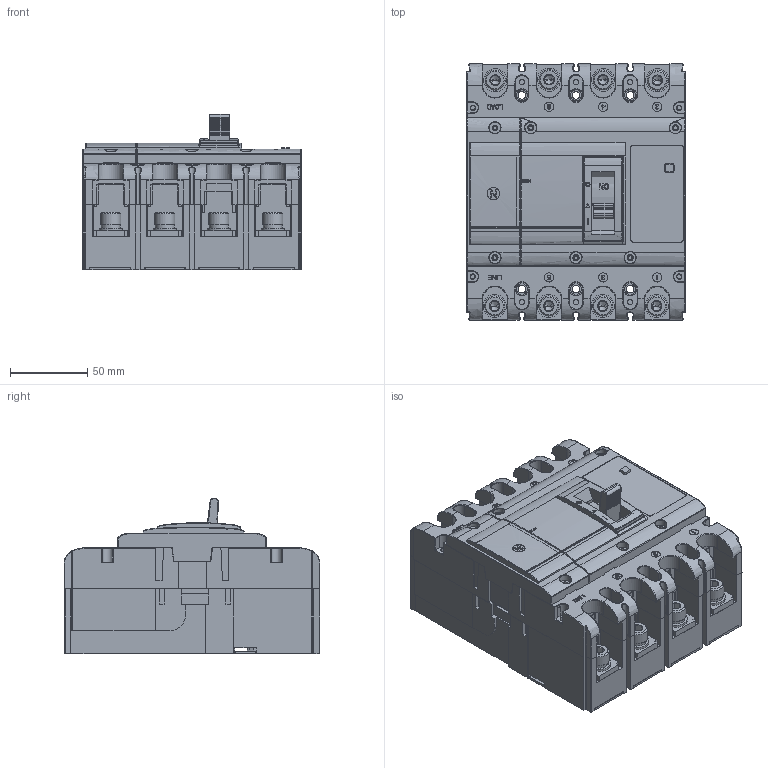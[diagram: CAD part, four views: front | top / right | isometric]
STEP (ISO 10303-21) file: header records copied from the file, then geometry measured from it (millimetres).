
FILE_DESCRIPTION((''),'2;1');
FILE_NAME('TGM1N_K_G_H_-250L-4P_ASM','2019-03-15T',('Administrator'),(''),'PRO/ENGINEER BY PARAMETRIC TECHNOLOGY CORPORATION, 2017170','PRO/ENGINEER BY PARAMETRIC TECHNOLOGY CORPORATION, 2017170','');
FILE_SCHEMA(('CONFIG_CONTROL_DESIGN'));
Products named in the file (21): JIZUO-4P_1; 5TZD-024-063_ASM_6_ASM; JINGCHUTOU_12; 5TZD-552-1024_ASM_15_ASM; 8TZD_742_1050_8; 8TZD_253_1013-TKAN_5; GB_T848-8_3; GB_T93-8_4; GB_T70_1-M8X20_3; 8TZD-742-1061_4; M3YINGLIANJIEL_2; 5TZD-599-1034-1-8_ASM_2_ASM; 5TZD-599-1035-1-8_ASM_2_ASM; 5TZD-599-1036-1-8_ASM_2_ASM; 2TZD-259-1016-1-8_ASM_16_ASM; 8TZD_742_1096; 4P-ZG; 8TZD_253_1262; 4P-SG; 4P-NG; TGM1N_K_G_H_-250L-4P_ASM
Assembly tree (55 placements, depth 6):
  TGM1N_K_G_H_-250L-4P_ASM
    2TZD-259-1016-1-8_ASM_16_ASM
      5TZD-024-063_ASM_6_ASM
        JIZUO-4P_1
      5TZD-552-1024_ASM_15_ASM  x3
        JINGCHUTOU_12
      8TZD_742_1050_8  x4
      8TZD_253_1013-TKAN_5
      GB_T848-8_3  x7
      GB_T93-8_4  x7
      GB_T70_1-M8X20_3  x7
      8TZD-742-1061_4
      5TZD-599-1036-1-8_ASM_2_ASM  x3
        5TZD-599-1035-1-8_ASM_2_ASM
          5TZD-599-1034-1-8_ASM_2_ASM
            M3YINGLIANJIEL_2
    M3YINGLIANJIEL_2
    8TZD_742_1096  x4
    JINGCHUTOU_12
    GB_T848-8_3
    GB_T93-8_4  x2
    GB_T70_1-M8X20_3  x2
    4P-ZG
    8TZD_253_1262
    4P-SG
    4P-NG
Bounding box: 141.6 x 165.5 x 100.3 mm (x, y, z)
Volume: 1379845.7 mm3; surface area: 411752.3 mm2
Topology: 49 solids, 95 shells, 4836 faces, 12956 edges, 8434 vertices
Faces by surface type: plane 3224, cylinder 1071, bspline 157, cone 148, torus 106, sphere 78, extrusion 52
Entity records: 146969 total; most frequent: CARTESIAN_POINT 40251, ORIENTED_EDGE 22764, DIRECTION 21010, EDGE_CURVE 11394, VECTOR 8540, LINE 8488, VERTEX_POINT 7440, AXIS2_PLACEMENT_3D 6235
